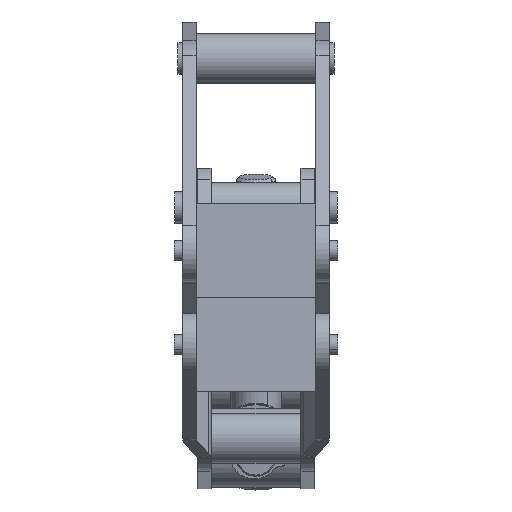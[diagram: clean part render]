
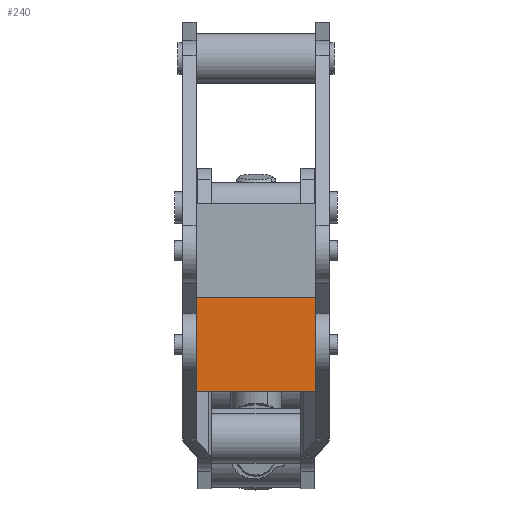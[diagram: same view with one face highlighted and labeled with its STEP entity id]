
A CAD part, left-side view. The second image highlights one B-rep face of the part: STEP entity #240.
In plain terms, the highlighted planar face has unit normal (-1, 0, 0).
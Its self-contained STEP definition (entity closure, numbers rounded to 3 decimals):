
#240 = ADVANCED_FACE ( 'NONE', ( #9429 ), #9430, .F. ) ;
#1123 = EDGE_CURVE ( 'NONE', #4604, #4606, #10034, .T. ) ;
#1124 = EDGE_CURVE ( 'NONE', #3914, #4606, #10021, .T. ) ;
#1125 = EDGE_CURVE ( 'NONE', #4069, #3914, #10024, .T. ) ;
#1126 = EDGE_CURVE ( 'NONE', #4069, #4604, #10035, .T. ) ;
#1351 = CARTESIAN_POINT ( 'NONE',  ( -20., 30., 19.05 ) ) ;
#1356 = CARTESIAN_POINT ( 'NONE',  ( -20., 30., -19.05 ) ) ;
#1479 = CARTESIAN_POINT ( 'NONE',  ( -20., 0., -19.05 ) ) ;
#1481 = CARTESIAN_POINT ( 'NONE',  ( -20., 0., 19.05 ) ) ;
#3756 = EDGE_LOOP ( 'NONE', ( #3908, #3910, #4080, #4079 ) ) ;
#3908 = ORIENTED_EDGE ( 'NONE', *, *, #1123, .T. ) ;
#3910 = ORIENTED_EDGE ( 'NONE', *, *, #1124, .F. ) ;
#3914 = VERTEX_POINT ( 'NONE', #1351 ) ;
#4069 = VERTEX_POINT ( 'NONE', #1356 ) ;
#4079 = ORIENTED_EDGE ( 'NONE', *, *, #1126, .T. ) ;
#4080 = ORIENTED_EDGE ( 'NONE', *, *, #1125, .F. ) ;
#4604 = VERTEX_POINT ( 'NONE', #1479 ) ;
#4606 = VERTEX_POINT ( 'NONE', #1481 ) ;
#6900 = AXIS2_PLACEMENT_3D ( 'NONE', #9425, #9432, #9433 ) ;
#7068 = VECTOR ( 'NONE', #10039, 1000. ) ;
#7071 = VECTOR ( 'NONE', #10037, 1000. ) ;
#7072 = VECTOR ( 'NONE', #10042, 1000. ) ;
#7073 = VECTOR ( 'NONE', #10044, 1000. ) ;
#9425 = CARTESIAN_POINT ( 'NONE',  ( -20., 30., -19.05 ) ) ;
#9429 = FACE_OUTER_BOUND ( 'NONE', #3756, .T. ) ;
#9430 = PLANE ( 'NONE',  #6900 ) ;
#9432 = DIRECTION ( 'NONE',  ( 1., 0., 0. ) ) ;
#9433 = DIRECTION ( 'NONE',  ( 0., 0., -1. ) ) ;
#10021 = LINE ( 'NONE', #10038, #7068 ) ;
#10024 = LINE ( 'NONE', #10040, #7072 ) ;
#10034 = LINE ( 'NONE', #10036, #7071 ) ;
#10035 = LINE ( 'NONE', #10043, #7073 ) ;
#10036 = CARTESIAN_POINT ( 'NONE',  ( -20., 0., -19.05 ) ) ;
#10037 = DIRECTION ( 'NONE',  ( 0., 0., 1. ) ) ;
#10038 = CARTESIAN_POINT ( 'NONE',  ( -20., 30., 19.05 ) ) ;
#10039 = DIRECTION ( 'NONE',  ( 0., -1., 0. ) ) ;
#10040 = CARTESIAN_POINT ( 'NONE',  ( -20., 30., -19.05 ) ) ;
#10042 = DIRECTION ( 'NONE',  ( 0., 0., 1. ) ) ;
#10043 = CARTESIAN_POINT ( 'NONE',  ( -20., 30., -19.05 ) ) ;
#10044 = DIRECTION ( 'NONE',  ( 0., -1., 0. ) ) ;
